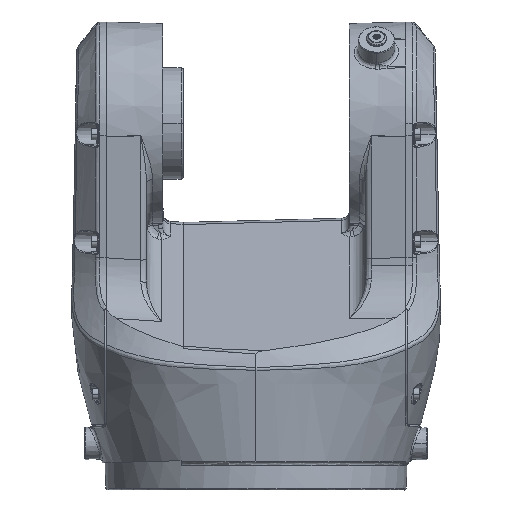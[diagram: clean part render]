
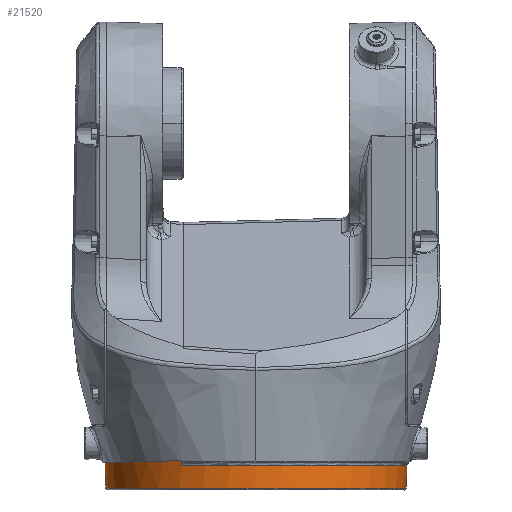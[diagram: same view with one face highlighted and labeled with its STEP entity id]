
A CAD part, left-side view. The second image highlights one B-rep face of the part: STEP entity #21520.
In plain terms, the highlighted conical face has half-angle 1.5 degrees and reference radius 74.514 mm.
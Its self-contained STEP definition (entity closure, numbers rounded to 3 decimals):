
#1049 = DIRECTION ( 'NONE',  ( 0., 0., 1. ) ) ;
#1433 = LINE ( 'NONE', #48530, #40040 ) ;
#2035 = VERTEX_POINT ( 'NONE', #5282 ) ;
#3034 = DIRECTION ( 'NONE',  ( 0., -1., 0. ) ) ;
#3115 = CIRCLE ( 'NONE', #22962, 74.173 ) ;
#3352 = CARTESIAN_POINT ( 'NONE',  ( 0., 0., 158.052 ) ) ;
#4473 = AXIS2_PLACEMENT_3D ( 'NONE', #36513, #1049, #48921 ) ;
#4706 = ORIENTED_EDGE ( 'NONE', *, *, #35516, .T. ) ;
#4866 = VERTEX_POINT ( 'NONE', #37735 ) ;
#5186 = CARTESIAN_POINT ( 'NONE',  ( -64.604, 37., 158.052 ) ) ;
#5282 = CARTESIAN_POINT ( 'NONE',  ( -1.75, -74.138, 146.974 ) ) ;
#5562 = DIRECTION ( 'NONE',  ( 0., -0.026, 1. ) ) ;
#5801 = CARTESIAN_POINT ( 'NONE',  ( -51.067, 60.757, 159.852 ) ) ;
#9047 = ORIENTED_EDGE ( 'NONE', *, *, #24343, .T. ) ;
#10044 = EDGE_CURVE ( 'NONE', #44489, #4866, #20411, .T. ) ;
#10091 = CARTESIAN_POINT ( 'NONE',  ( -64.677, 37., 160.474 ) ) ;
#10539 = DIRECTION ( 'NONE',  ( 0., 0., 1. ) ) ;
#11404 = CARTESIAN_POINT ( 'NONE',  ( 0., -74.173, 147.5 ) ) ;
#11661 = EDGE_CURVE ( 'NONE', #4866, #37456, #24121, .T. ) ;
#12132 = CARTESIAN_POINT ( 'NONE',  ( 0., -74.449, 158.052 ) ) ;
#12677 = ORIENTED_EDGE ( 'NONE', *, *, #11661, .T. ) ;
#14520 = DIRECTION ( 'NONE',  ( 0., -0.026, 1. ) ) ;
#14587 = EDGE_CURVE ( 'NONE', #16065, #37828, #29504, .T. ) ;
#16065 = VERTEX_POINT ( 'NONE', #30340 ) ;
#18846 = VECTOR ( 'NONE', #14520, 1000. ) ;
#20411 = CIRCLE ( 'NONE', #39464, 74.449 ) ;
#21520 = ADVANCED_FACE ( 'NONE', ( #37731 ), #21758, .T. ) ;
#21758 = CONICAL_SURFACE ( 'NONE', #40808, 74.515, 0.026 ) ;
#22737 = CARTESIAN_POINT ( 'NONE',  ( 0., 74.515, 160.555 ) ) ;
#22962 = AXIS2_PLACEMENT_3D ( 'NONE', #31749, #30713, #3034 ) ;
#23804 = EDGE_CURVE ( 'NONE', #40565, #44489, #1433, .T. ) ;
#24121 = B_SPLINE_CURVE_WITH_KNOTS ( 'NONE', 3,
 ( #5186, #28991, #25359, #10091 ),
 .UNSPECIFIED., .F., .F.,
 ( 4, 4 ),
 ( 0., 0.002 ),
 .UNSPECIFIED. ) ;
#24167 = CARTESIAN_POINT ( 'NONE',  ( -1.75, -74.152, 147.5 ) ) ;
#24343 = EDGE_CURVE ( 'NONE', #16065, #2035, #49119, .T. ) ;
#24441 = ORIENTED_EDGE ( 'NONE', *, *, #46887, .F. ) ;
#25359 = CARTESIAN_POINT ( 'NONE',  ( -64.653, 37., 159.667 ) ) ;
#25621 = DIRECTION ( 'NONE',  ( 0., 0.026, 1. ) ) ;
#26218 = CARTESIAN_POINT ( 'NONE',  ( -64.677, 37., 160.474 ) ) ;
#28740 = ORIENTED_EDGE ( 'NONE', *, *, #10044, .T. ) ;
#28991 = CARTESIAN_POINT ( 'NONE',  ( -64.628, 37., 158.86 ) ) ;
#29504 = LINE ( 'NONE', #22737, #50266 ) ;
#30340 = CARTESIAN_POINT ( 'NONE',  ( 0., 74.159, 146.974 ) ) ;
#30713 = DIRECTION ( 'NONE',  ( 0., 0., -1. ) ) ;
#31031 = DIRECTION ( 'NONE',  ( 0., -1., 0. ) ) ;
#31749 = CARTESIAN_POINT ( 'NONE',  ( 0., 0., 147.5 ) ) ;
#32982 = ORIENTED_EDGE ( 'NONE', *, *, #14587, .F. ) ;
#33318 = DIRECTION ( 'NONE',  ( 0., -1., 0. ) ) ;
#35516 = EDGE_CURVE ( 'NONE', #37456, #37828, #43681, .T. ) ;
#36513 = CARTESIAN_POINT ( 'NONE',  ( 0., 0., 146.974 ) ) ;
#37456 = VERTEX_POINT ( 'NONE', #49571 ) ;
#37731 = FACE_OUTER_BOUND ( 'NONE', #38815, .T. ) ;
#37735 = CARTESIAN_POINT ( 'NONE',  ( -64.604, 37., 158.052 ) ) ;
#37828 = VERTEX_POINT ( 'NONE', #44417 ) ;
#38144 = CARTESIAN_POINT ( 'NONE',  ( -27.379, 74.487, 159.492 ) ) ;
#38815 = EDGE_LOOP ( 'NONE', ( #32982, #9047, #41554, #24441, #43839, #28740, #12677, #4706 ) ) ;
#39464 = AXIS2_PLACEMENT_3D ( 'NONE', #3352, #47100, #31031 ) ;
#40040 = VECTOR ( 'NONE', #5562, 1000. ) ;
#40565 = VERTEX_POINT ( 'NONE', #11404 ) ;
#40808 = AXIS2_PLACEMENT_3D ( 'NONE', #41360, #10539, #33318 ) ;
#41360 = CARTESIAN_POINT ( 'NONE',  ( 0., 0., 160.555 ) ) ;
#41554 = ORIENTED_EDGE ( 'NONE', *, *, #49578, .T. ) ;
#42022 = CARTESIAN_POINT ( 'NONE',  ( 0., 74.487, 159.492 ) ) ;
#43681 =( BOUNDED_CURVE ( )  B_SPLINE_CURVE ( 3, ( #26218, #5801, #38144, #42022 ),
 .UNSPECIFIED., .F., .T. ) 
 B_SPLINE_CURVE_WITH_KNOTS ( ( 4, 4 ),
 ( 2.091, 3.142 ),
 .UNSPECIFIED. ) 
 CURVE ( )  GEOMETRIC_REPRESENTATION_ITEM ( )  RATIONAL_B_SPLINE_CURVE ( ( 1., 0.91, 0.91, 1. ) ) 
 REPRESENTATION_ITEM ( '' )  );
#43839 = ORIENTED_EDGE ( 'NONE', *, *, #23804, .T. ) ;
#44417 = CARTESIAN_POINT ( 'NONE',  ( 0., 74.487, 159.492 ) ) ;
#44489 = VERTEX_POINT ( 'NONE', #12132 ) ;
#46887 = EDGE_CURVE ( 'NONE', #40565, #47418, #3115, .T. ) ;
#47100 = DIRECTION ( 'NONE',  ( 0., 0., -1. ) ) ;
#47418 = VERTEX_POINT ( 'NONE', #24167 ) ;
#48530 = CARTESIAN_POINT ( 'NONE',  ( 0., -74.515, 160.555 ) ) ;
#48921 = DIRECTION ( 'NONE',  ( 0., -1., 0. ) ) ;
#49119 = CIRCLE ( 'NONE', #4473, 74.159 ) ;
#49571 = CARTESIAN_POINT ( 'NONE',  ( -64.677, 37., 160.474 ) ) ;
#49578 = EDGE_CURVE ( 'NONE', #2035, #47418, #49734, .T. ) ;
#49734 = LINE ( 'NONE', #49979, #18846 ) ;
#49979 = CARTESIAN_POINT ( 'NONE',  ( -1.75, -74.138, 146.974 ) ) ;
#50266 = VECTOR ( 'NONE', #25621, 1000. ) ;
